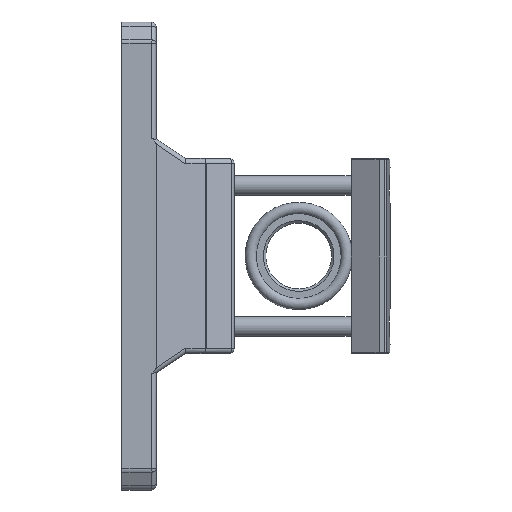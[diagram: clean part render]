
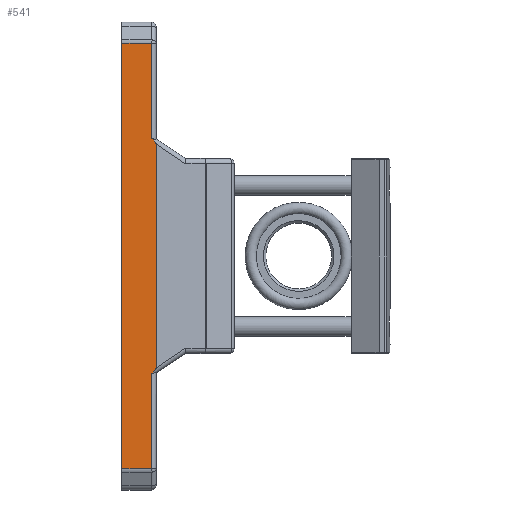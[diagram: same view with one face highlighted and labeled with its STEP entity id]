
A CAD part, left-side view. The second image highlights one B-rep face of the part: STEP entity #541.
In plain terms, the highlighted planar face has unit normal (-1, 0, 0) as drawn and (1, 0, 0) by its records, which use the part's own axes.
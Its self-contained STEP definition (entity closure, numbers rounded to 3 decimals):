
#541 = ADVANCED_FACE( '', ( #1224 ), #1225, .T. );
#1224 = FACE_OUTER_BOUND( '', #2351, .T. );
#1225 = PLANE( '', #2352 );
#2351 = EDGE_LOOP( '', ( #4007, #4008, #4009, #4010, #4011, #4012, #4013, #4014 ) );
#2352 = AXIS2_PLACEMENT_3D( '', #4015, #4016, #4017 );
#4007 = ORIENTED_EDGE( '', *, *, #6052, .T. );
#4008 = ORIENTED_EDGE( '', *, *, #5701, .T. );
#4009 = ORIENTED_EDGE( '', *, *, #6053, .T. );
#4010 = ORIENTED_EDGE( '', *, *, #5998, .T. );
#4011 = ORIENTED_EDGE( '', *, *, #5795, .F. );
#4012 = ORIENTED_EDGE( '', *, *, #6054, .T. );
#4013 = ORIENTED_EDGE( '', *, *, #6055, .T. );
#4014 = ORIENTED_EDGE( '', *, *, #5694, .T. );
#4015 = CARTESIAN_POINT( '', ( 10., -24., 7. ) );
#4016 = DIRECTION( '', ( 1., 0., 0. ) );
#4017 = DIRECTION( '', ( 0., 0., -1. ) );
#5694 = EDGE_CURVE( '', #6599, #6596, #6600, .T. );
#5701 = EDGE_CURVE( '', #6606, #6610, #6612, .F. );
#5795 = EDGE_CURVE( '', #6776, #6778, #6779, .T. );
#5998 = EDGE_CURVE( '', #7109, #6778, #7110, .T. );
#6052 = EDGE_CURVE( '', #6596, #6606, #7191, .T. );
#6053 = EDGE_CURVE( '', #6610, #7109, #7192, .F. );
#6054 = EDGE_CURVE( '', #6776, #7193, #7194, .T. );
#6055 = EDGE_CURVE( '', #7193, #6599, #7195, .F. );
#6596 = VERTEX_POINT( '', #7882 );
#6599 = VERTEX_POINT( '', #7885 );
#6600 = LINE( '', #7886, #7887 );
#6606 = VERTEX_POINT( '', #7894 );
#6610 = VERTEX_POINT( '', #7899 );
#6612 = LINE( '', #7901, #7902 );
#6776 = VERTEX_POINT( '', #8111 );
#6778 = VERTEX_POINT( '', #8114 );
#6779 = LINE( '', #8115, #8116 );
#7109 = VERTEX_POINT( '', #8550 );
#7110 = ELLIPSE( '', #8551, 6.21, 1. );
#7191 = LINE( '', #8682, #8683 );
#7192 = LINE( '', #8684, #8685 );
#7193 = VERTEX_POINT( '', #8686 );
#7194 = ELLIPSE( '', #8687, 6.21, 1. );
#7195 = LINE( '', #8688, #8689 );
#7882 = CARTESIAN_POINT( '', ( 10., -43.646, 0. ) );
#7885 = CARTESIAN_POINT( '', ( 10., -43.646, 6. ) );
#7886 = CARTESIAN_POINT( '', ( 10., -43.646, 7. ) );
#7887 = VECTOR( '', #9609, 1000. );
#7894 = CARTESIAN_POINT( '', ( 10., 43.646, 0. ) );
#7899 = CARTESIAN_POINT( '', ( 10., 43.646, 6. ) );
#7901 = CARTESIAN_POINT( '', ( 10., 43.646, 7. ) );
#7902 = VECTOR( '', #9621, 1000. );
#8111 = CARTESIAN_POINT( '', ( 10., -22.926, 7. ) );
#8114 = CARTESIAN_POINT( '', ( 10., 22.926, 7. ) );
#8115 = CARTESIAN_POINT( '', ( 10., -24., 7. ) );
#8116 = VECTOR( '', #9758, 1000. );
#8550 = CARTESIAN_POINT( '', ( 10., 24.273, 6. ) );
#8551 = AXIS2_PLACEMENT_3D( '', #10055, #10056, #10057 );
#8682 = CARTESIAN_POINT( '', ( 10., -24., 0. ) );
#8683 = VECTOR( '', #10127, 1000. );
#8684 = CARTESIAN_POINT( '', ( 10., -24., 6. ) );
#8685 = VECTOR( '', #10128, 1000. );
#8686 = CARTESIAN_POINT( '', ( 10., -24.273, 6. ) );
#8687 = AXIS2_PLACEMENT_3D( '', #10129, #10130, #10131 );
#8688 = CARTESIAN_POINT( '', ( 10., -24., 6. ) );
#8689 = VECTOR( '', #10132, 1000. );
#9609 = DIRECTION( '', ( 0., 0., -1. ) );
#9621 = DIRECTION( '', ( 0., 0., -1. ) );
#9758 = DIRECTION( '', ( 0., 1., 0. ) );
#10055 = CARTESIAN_POINT( '', ( 10., 26.263, 1.803 ) );
#10056 = DIRECTION( '', ( 1., 0., 0. ) );
#10057 = DIRECTION( '', ( 0., -0.555, 0.832 ) );
#10127 = DIRECTION( '', ( 0., 1., 0. ) );
#10128 = DIRECTION( '', ( 0., 1., 0. ) );
#10129 = CARTESIAN_POINT( '', ( 10., -26.263, 1.803 ) );
#10130 = DIRECTION( '', ( 1., 0., 0. ) );
#10131 = DIRECTION( '', ( 0., -0.555, -0.832 ) );
#10132 = DIRECTION( '', ( 0., 1., 0. ) );
